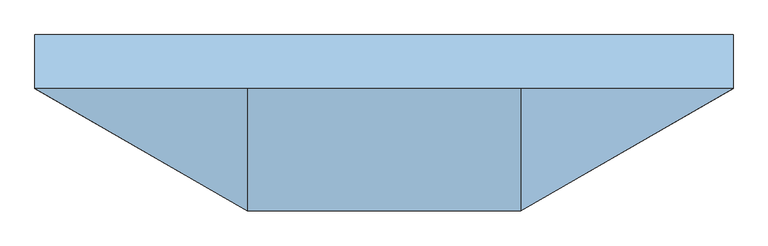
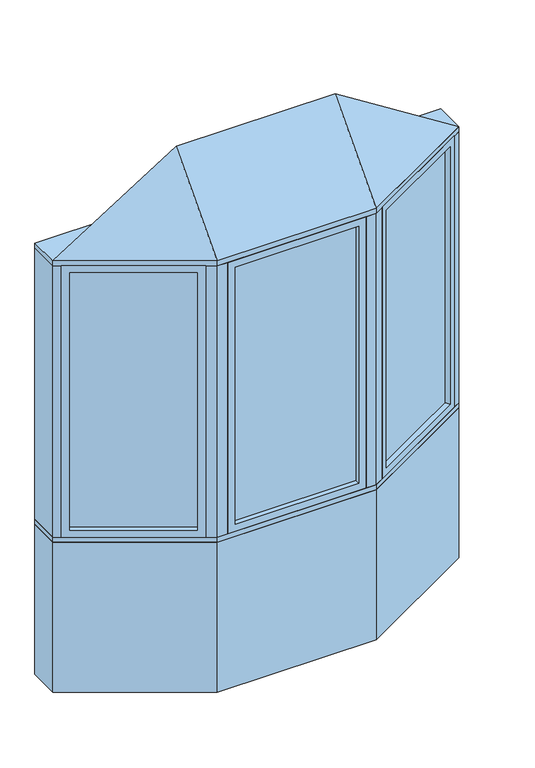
"""IFC4 building model written with IfcOpenShell, lengths in millimetres: window geometry, Pollard_Windows_Tudor Casement Bows and Bays : AML-BAY 30 AFR0514-10-600."""

from ifc_helpers import new_model, si_unit, frame, origin, origin_with_axes, place, context, project, spatial, polyline, outline, extrude, faceted_brep, source, transform, mapped, element, save


def window_af7ec51c(model_context):
    return source(origin(), model_context, "Body", "SolidModel", [
        extrude(outline(polyline([(926.612102, -82.0482469), (438.3834764, -363.9271754), (435.8434764, -359.5277664), (924.072102, -77.6488379), (926.612102, -82.0482469)])), frame((0.0, 0.0, 823.1628), z_axis=(0.0, 0.0, 1.0), x_axis=(1.0, 0.0, 0.0)), (0.0, 0.0, 1.0), 1353.6704),
        faceted_brep([(915.6135794, -88.3982469, 835.8628), (928.3135794, -110.3952922, 835.8628), (928.3135794, -110.3952922, 2164.1332), (915.6135794, -88.3982469, 2164.1332), (924.072102, -77.6488379, 823.1628), (926.612102, -82.0482469, 823.1628), (926.612102, -82.0482469, 2176.8332), (924.072102, -77.6488379, 2176.8332), (900.3735794, -62.0017926, 835.8628), (913.0735794, -83.9988379, 835.8628), (913.0735794, -83.9988379, 2164.1332), (900.3735794, -62.0017926, 2164.1332), (959.3734073, -92.4628922, 799.998), (931.4334073, -44.0693926, 799.998), (931.4334073, -44.0693926, 2199.998), (959.3734073, -92.4628922, 2199.998), (462.081999, -379.5742207, 2164.1332), (449.381999, -357.5771754, 2164.1332), (438.3834764, -363.9271754, 2176.8332), (435.8434764, -359.5277664, 2176.8332), (446.841999, -353.1777664, 2164.1332), (434.141999, -331.1807211, 2164.1332), (403.0821711, -349.1131211, 2199.998), (431.0221711, -397.5066207, 2199.998), (462.081999, -379.5742207, 835.8628), (449.381999, -357.5771754, 835.8628), (438.3834764, -363.9271754, 823.1628), (435.8434764, -359.5277664, 823.1628), (446.841999, -353.1777664, 835.8628), (434.141999, -331.1807211, 835.8628), (403.0821711, -349.1131211, 799.998), (431.0221711, -397.5066207, 799.998)], [[[0, 1, 2, 3]], [[4, 5, 6, 7]], [[8, 9, 10, 11]], [[12, 13, 14, 15]], [[3, 2, 16, 17]], [[7, 6, 18, 19]], [[11, 10, 20, 21]], [[15, 14, 22, 23]], [[17, 16, 24, 25]], [[19, 18, 26, 27]], [[21, 20, 28, 29]], [[23, 22, 30, 31]], [[25, 24, 1, 0]], [[5, 26, 18, 6], [3, 17, 25, 0]], [[27, 26, 5, 4]], [[7, 19, 27, 4], [9, 28, 20, 10]], [[29, 28, 9, 8]], [[13, 30, 22, 14], [11, 21, 29, 8]], [[31, 30, 13, 12]], [[15, 23, 31, 12], [1, 24, 16, 2]]]),
        extrude(outline(polyline([(-438.3834764, -363.9271754), (-926.612102, -82.0482469), (-924.072102, -77.6488379), (-435.8434764, -359.5277664), (-438.3834764, -363.9271754)])), frame((0.0, 0.0, 823.1628), z_axis=(0.0, 0.0, 1.0), x_axis=(1.0, 0.0, 0.0)), (0.0, 0.0, 1.0), 1353.6704),
        faceted_brep([(-446.841999, -353.1777664, 2164.1332), (-434.141999, -331.1807211, 2164.1332), (-434.141999, -331.1807211, 835.8628), (-446.841999, -353.1777664, 835.8628), (-438.3834764, -363.9271754, 2176.8332), (-435.8434764, -359.5277664, 2176.8332), (-435.8434764, -359.5277664, 823.1628), (-438.3834764, -363.9271754, 823.1628), (-462.081999, -379.5742207, 2164.1332), (-449.381999, -357.5771754, 2164.1332), (-449.381999, -357.5771754, 835.8628), (-462.081999, -379.5742207, 835.8628), (-403.0821711, -349.1131211, 2199.998), (-431.0221711, -397.5066207, 2199.998), (-431.0221711, -397.5066207, 799.998), (-403.0821711, -349.1131211, 799.998), (-900.3735794, -62.0017926, 835.8628), (-913.0735794, -83.9988379, 835.8628), (-924.072102, -77.6488379, 823.1628), (-926.612102, -82.0482469, 823.1628), (-915.6135794, -88.3982469, 835.8628), (-928.3135794, -110.3952922, 835.8628), (-959.3734073, -92.4628922, 799.998), (-931.4334073, -44.0693926, 799.998), (-900.3735794, -62.0017926, 2164.1332), (-913.0735794, -83.9988379, 2164.1332), (-924.072102, -77.6488379, 2176.8332), (-926.612102, -82.0482469, 2176.8332), (-915.6135794, -88.3982469, 2164.1332), (-928.3135794, -110.3952922, 2164.1332), (-959.3734073, -92.4628922, 2199.998), (-931.4334073, -44.0693926, 2199.998)], [[[0, 1, 2, 3]], [[4, 5, 6, 7]], [[8, 9, 10, 11]], [[12, 13, 14, 15]], [[3, 2, 16, 17]], [[7, 6, 18, 19]], [[11, 10, 20, 21]], [[15, 14, 22, 23]], [[17, 16, 24, 25]], [[19, 18, 26, 27]], [[21, 20, 28, 29]], [[23, 22, 30, 31]], [[15, 23, 31, 12], [1, 24, 16, 2]], [[25, 24, 1, 0]], [[5, 26, 18, 6], [3, 17, 25, 0]], [[27, 26, 5, 4]], [[7, 19, 27, 4], [9, 28, 20, 10]], [[29, 28, 9, 8]], [[13, 30, 22, 14], [11, 21, 29, 8]], [[31, 30, 13, 12]]]),
        extrude(outline(polyline([(314.5561009, -397.1066207), (-314.5561009, -397.1066207), (-314.5561009, -392.0266207), (314.5561009, -392.0266207), (314.5561009, -397.1066207)])), frame((0.0, 0.0, 823.1628), z_axis=(0.0, 0.0, 1.0), x_axis=(1.0, 0.0, 0.0)), (0.0, 0.0, 1.0), 1353.6704),
        faceted_brep([(301.8561009, -397.1066207, 835.8628), (301.8561009, -422.5066207, 835.8628), (301.8561009, -422.5066207, 2164.1332), (301.8561009, -397.1066207, 2164.1332), (314.5561009, -392.0266207, 823.1628), (314.5561009, -397.1066207, 823.1628), (314.5561009, -397.1066207, 2176.8332), (314.5561009, -392.0266207, 2176.8332), (301.8561009, -366.6266207, 835.8628), (301.8561009, -392.0266207, 835.8628), (301.8561009, -392.0266207, 2164.1332), (301.8561009, -366.6266207, 2164.1332), (337.7209009, -422.5066207, 799.998), (337.7209009, -366.6266207, 799.998), (337.7209009, -366.6266207, 2199.998), (337.7209009, -422.5066207, 2199.998), (-301.8561009, -422.5066207, 2164.1332), (-301.8561009, -397.1066207, 2164.1332), (-314.5561009, -397.1066207, 2176.8332), (-314.5561009, -392.0266207, 2176.8332), (-301.8561009, -392.0266207, 2164.1332), (-301.8561009, -366.6266207, 2164.1332), (-337.7209009, -366.6266207, 2199.998), (-337.7209009, -422.5066207, 2199.998), (-301.8561009, -422.5066207, 835.8628), (-301.8561009, -397.1066207, 835.8628), (-314.5561009, -397.1066207, 823.1628), (-314.5561009, -392.0266207, 823.1628), (-301.8561009, -392.0266207, 835.8628), (-301.8561009, -366.6266207, 835.8628), (-337.7209009, -366.6266207, 799.998), (-337.7209009, -422.5066207, 799.998)], [[[0, 1, 2, 3]], [[4, 5, 6, 7]], [[8, 9, 10, 11]], [[12, 13, 14, 15]], [[3, 2, 16, 17]], [[7, 6, 18, 19]], [[11, 10, 20, 21]], [[15, 14, 22, 23]], [[17, 16, 24, 25]], [[19, 18, 26, 27]], [[21, 20, 28, 29]], [[23, 22, 30, 31]], [[15, 23, 31, 12], [1, 24, 16, 2]], [[25, 24, 1, 0]], [[5, 26, 18, 6], [3, 17, 25, 0]], [[27, 26, 5, 4]], [[7, 19, 27, 4], [9, 28, 20, 10]], [[29, 28, 9, 8]], [[13, 30, 22, 14], [11, 21, 29, 8]], [[31, 30, 13, 12]]]),
        faceted_brep([(990.0, -74.7806207, 2225.398), (387.7209009, -422.5066207, 2225.398), (-387.7209009, -422.5066207, 2225.398), (-990.0, -74.7806207, 2225.398), (-387.7209009, -74.7806207, 2606.398), (387.7209009, -74.7806207, 2606.398)], [[[0, 1, 2, 3]], [[3, 2, 4]], [[2, 1, 5, 4]], [[1, 0, 5]], [[0, 3, 4, 5]]]),
        extrude(outline(polyline([(-990.0, 77.6193793), (990.0, 77.6193793), (990.0, -74.7806207), (387.7209009, -422.5066207), (-387.7209009, -422.5066207), (-990.0, -74.7806207), (-990.0, 77.6193793)])), frame((0.0, 0.0, 2199.998), z_axis=(0.0, 0.0, 1.0), x_axis=(1.0, 0.0, 0.0)), (0.0, 0.0, 1.0), 25.4),
        extrude(outline(polyline([(-990.0, -74.7806207), (-990.0, 77.6193793), (-949.1645431, 77.6193793), (-949.1645431, -74.7806207), (-959.3734073, -92.4628922), (-990.0, -74.7806207)])), frame((0.0, 0.0, 799.998), z_axis=(0.0, 0.0, 1.0), x_axis=(1.0, 0.0, 0.0)), (0.0, 0.0, 1.0), 1400.0),
        extrude(outline(polyline([(990.0, 77.6193793), (990.0, -74.7806207), (959.3734073, -92.4628922), (949.1645431, -74.7806207), (949.1645431, 77.6193793), (990.0, 77.6193793)])), frame((0.0, 0.0, 799.998), z_axis=(0.0, 0.0, 1.0), x_axis=(1.0, 0.0, 0.0)), (0.0, 0.0, 1.0), 1400.0),
        extrude(outline(polyline([(387.7209009, -422.5066207), (337.7209009, -422.5066207), (337.7209009, -372.5066207), (374.3234413, -372.5066207), (406.0221711, -354.2053505), (431.0221711, -397.5066207), (387.7209009, -422.5066207)])), frame((0.0, 0.0, 799.998), z_axis=(0.0, 0.0, 1.0), x_axis=(1.0, 0.0, 0.0)), (0.0, 0.0, 1.0), 1400.0),
        extrude(outline(polyline([(-387.7209009, -422.5066207), (-431.0221711, -397.5066207), (-406.0221711, -354.2053505), (-374.3234413, -372.5066207), (-337.7209009, -372.5066207), (-337.7209009, -422.5066207), (-387.7209009, -422.5066207)])), frame((0.0, 0.0, 799.998), z_axis=(0.0, 0.0, 1.0), x_axis=(1.0, 0.0, 0.0)), (0.0, 0.0, 1.0), 1400.0),
        extrude(outline(polyline([(-387.7209009, -422.5066207), (-990.0, -74.7806207), (-990.0, 77.6193793), (-949.1645431, 77.6193793), (-346.885444, -270.1066207), (346.885444, -270.1066207), (949.1645431, 77.6193793), (990.0, 77.6193793), (990.0, -74.7806207), (387.7209009, -422.5066207), (-387.7209009, -422.5066207)])), frame((0.0, 0.0, 774.598), z_axis=(0.0, 0.0, 1.0), x_axis=(1.0, 0.0, 0.0)), (0.0, 0.0, 1.0), 25.4),
        extrude(outline(polyline([(-990.0, -74.7806207), (-990.0, 77.6193793), (-949.1645431, 77.6193793), (-346.885444, -270.1066207), (346.885444, -270.1066207), (949.1645431, 77.6193793), (990.0, 77.6193793), (990.0, -74.7806207), (387.7209009, -422.5066207), (-387.7209009, -422.5066207), (-990.0, -74.7806207)])), origin_with_axes(), (0.0, 0.0, 1.0), 774.598),
    ])


if __name__ == "__main__":
    model = new_model("IFC4")
    model_context = context("Model", 3, world=origin())
    ifc_project = project(units=[si_unit("LENGTHUNIT", "METRE", prefix="MILLI")], contexts=[model_context])
    site = spatial("IfcSite", under=ifc_project)
    building = spatial("IfcBuilding", under=site)
    placement = place(None, origin())
    window_shape = window_af7ec51c(model_context)
    element("IfcWindow", 1, ObjectType="Pollard_Windows_Tudor Casement Bows and Bays : AML-BAY 30 AFR0514-10-600", at=placement, inside=building, context=model_context, shape_type="MappedRepresentation", body=[
        mapped(window_shape, transform((0.0, 0.0, 0.0), x_axis=(1.0, 0.0, 0.0), y_axis=(0.0, 1.0, 0.0), z_axis=(0.0, 0.0, 1.0))),
    ])
    save(model, "model.ifc")
